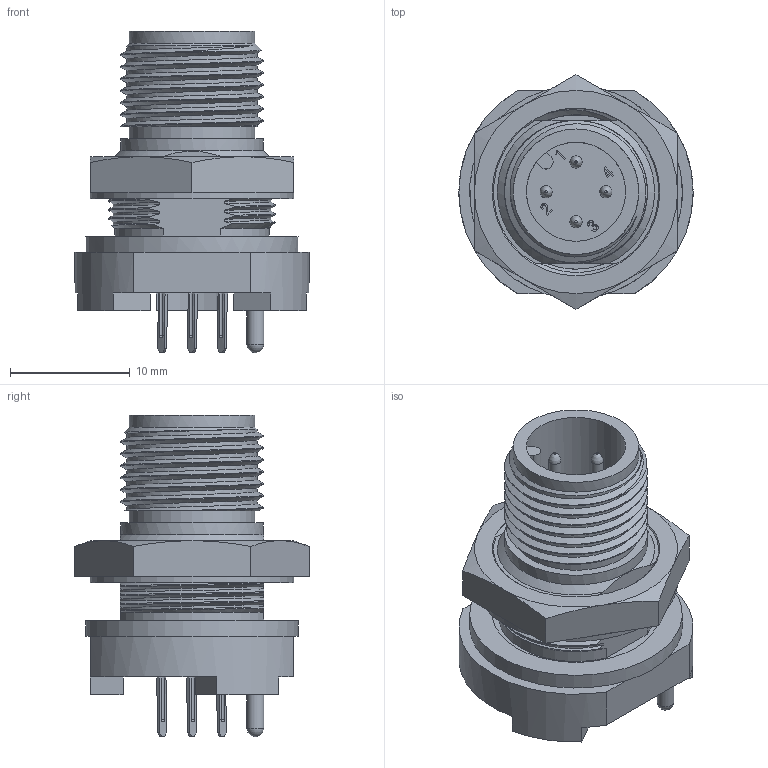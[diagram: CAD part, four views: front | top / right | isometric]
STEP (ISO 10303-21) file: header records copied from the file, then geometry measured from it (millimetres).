
FILE_DESCRIPTION (( 'STEP AP203' ), '1' );
FILE_NAME ('CM02-8DR4PD(D1)-FG.STEP', '2021-10-15T01:53:17', ( '' ), ( '' ), 'SwSTEP 2.0', 'SolidWorks 2018', '' );
FILE_SCHEMA (( 'CONFIG_CONTROL_DESIGN' ));
Length unit declared in the file: millimetre
Products named in the file (1): CM02-8DR4PD(D1)-FG
Bounding box: 19.6 x 19.63 x 26.9 mm (x, y, z)
Volume: 3247.1 mm3; surface area: 2629.2 mm2
Topology: 1 solids, 1 shells, 281 faces, 776 edges, 510 vertices
Faces by surface type: bspline 105, plane 103, cylinder 47, cone 13, torus 8, sphere 5
Full cylindrical faces by diameter (mm): 1.01 x4, 1.4 x1, 8.3 x1, 10.5 x2, 11.96 x1, 14 x1, 14.2 x1, 17 x1, 17.8 x1
Entity records: 26582 total; most frequent: CARTESIAN_POINT 20577, ORIENTED_EDGE 1470, DIRECTION 842, EDGE_CURVE 735, VERTEX_POINT 494, EDGE_LOOP 323, FACE_OUTER_BOUND 298, VECTOR 298
